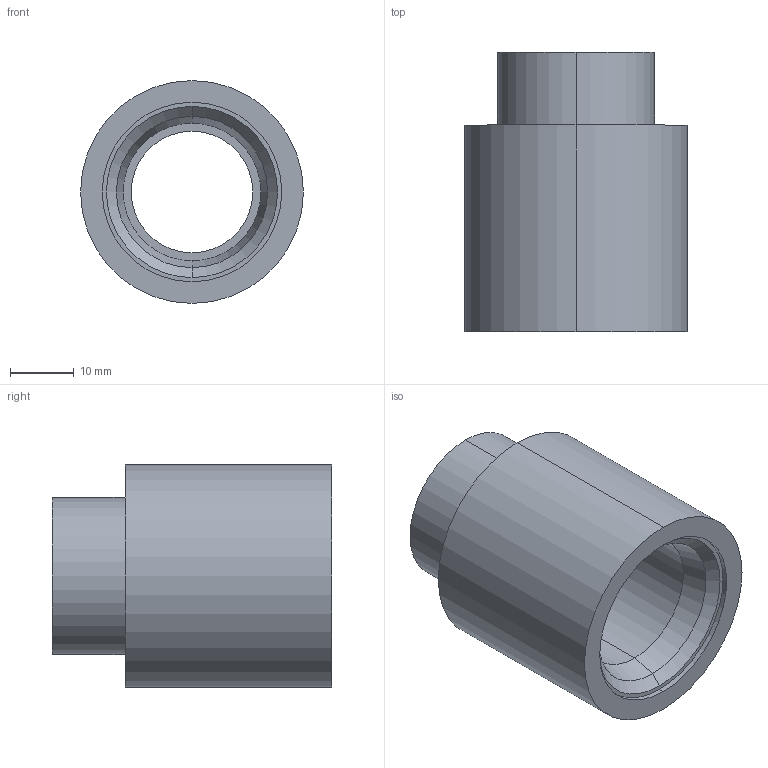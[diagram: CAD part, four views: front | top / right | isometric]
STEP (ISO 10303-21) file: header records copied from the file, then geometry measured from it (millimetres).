
FILE_DESCRIPTION (( 'STEP AP214' ), '1' );
FILE_NAME ('BTQ-19-CS-CM.STEP', '2014-01-15T20:24:48', ( '' ), ( '' ), 'SwSTEP 2.0', 'SolidWorks 2014', '' );
FILE_SCHEMA (( 'AUTOMOTIVE_DESIGN' ));
Length unit declared in the file: millimetre
Products named in the file (1): BTQ-19-CS-CM
Bounding box: 34.92 x 43.81 x 34.92 mm (x, y, z)
Volume: 21040.2 mm3; surface area: 8548.5 mm2
Topology: 1 solids, 1 shells, 19 faces, 38 edges, 24 vertices
Faces by surface type: cylinder 10, plane 5, cone 4
Entity records: 542 total; most frequent: DIRECTION 102, CARTESIAN_POINT 82, ORIENTED_EDGE 76, AXIS2_PLACEMENT_3D 44, EDGE_CURVE 38, EDGE_LOOP 24, CIRCLE 24, VERTEX_POINT 24
